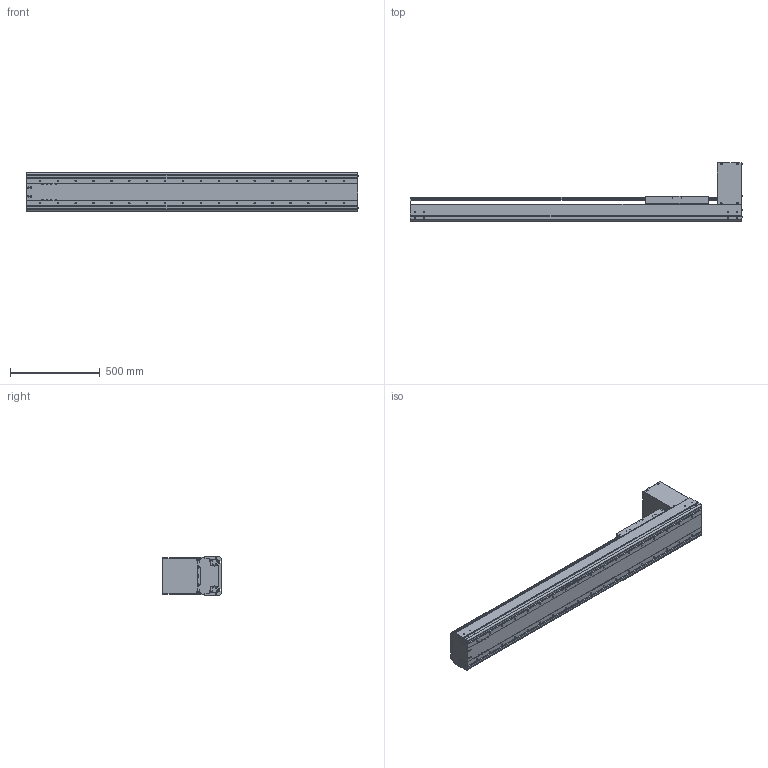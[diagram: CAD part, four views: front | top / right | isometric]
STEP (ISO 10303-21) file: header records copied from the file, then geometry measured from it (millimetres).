
FILE_DESCRIPTION((''),'2;1');
FILE_NAME('BE60J-BT-L19N-C5_IGS_PRT','2017-06-18T',(' '),(''),'PRO/ENGINEER BY PARAMETRIC TECHNOLOGY CORPORATION, 2015030','PRO/ENGINEER BY PARAMETRIC TECHNOLOGY CORPORATION, 2015030','');
FILE_SCHEMA(('CONFIG_CONTROL_DESIGN'));
Products named in the file (1): BE60J-BT-L19N-C5_IGS_PRT
Bounding box: 1854.4 x 327.5 x 214 mm (x, y, z)
Volume: 13566960.7 mm3; surface area: 4194754.9 mm2
Topology: 1 solids, 253 shells, 2162 faces, 6037 edges, 4023 vertices
Faces by surface type: cylinder 1036, plane 828, cone 202, torus 48, sphere 48
Entity records: 71712 total; most frequent: CARTESIAN_POINT 16204, DIRECTION 11651, ORIENTED_EDGE 10896, EDGE_CURVE 5892, AXIS2_PLACEMENT_3D 4387, VERTEX_POINT 4016, VECTOR 2877, LINE 2877
